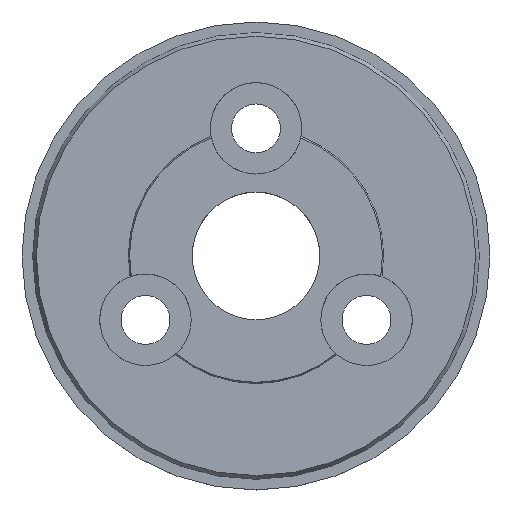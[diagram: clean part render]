
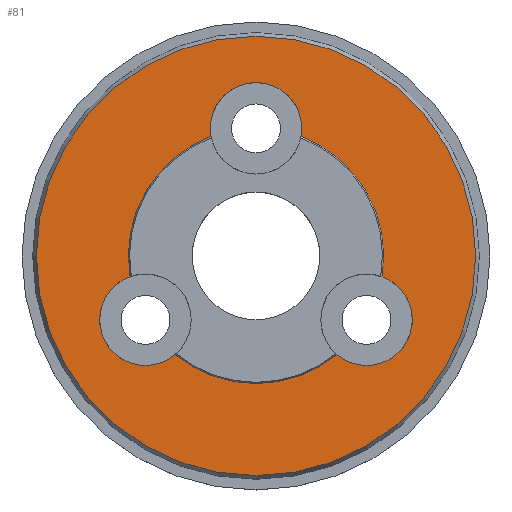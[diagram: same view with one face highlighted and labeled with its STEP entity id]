
A CAD part, top view. The second image highlights one B-rep face of the part: STEP entity #81.
In plain terms, the highlighted planar face has unit normal (0, 0, 1).
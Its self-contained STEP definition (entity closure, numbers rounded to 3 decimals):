
#81=ADVANCED_FACE('',(#119,#120),#104,.T.);
#104=PLANE('',#434);
#119=FACE_BOUND('',#164,.T.);
#120=FACE_BOUND('',#165,.T.);
#164=EDGE_LOOP('',(#219,#220,#221,#222,#223,#224));
#165=EDGE_LOOP('',(#225));
#219=ORIENTED_EDGE('',*,*,#347,.F.);
#220=ORIENTED_EDGE('',*,*,#339,.T.);
#221=ORIENTED_EDGE('',*,*,#348,.F.);
#222=ORIENTED_EDGE('',*,*,#343,.T.);
#223=ORIENTED_EDGE('',*,*,#349,.F.);
#224=ORIENTED_EDGE('',*,*,#350,.T.);
#225=ORIENTED_EDGE('',*,*,#351,.T.);
#300=VERTEX_POINT('',#614);
#302=VERTEX_POINT('',#618);
#304=VERTEX_POINT('',#623);
#306=VERTEX_POINT('',#627);
#310=VERTEX_POINT('',#639);
#311=VERTEX_POINT('',#642);
#312=VERTEX_POINT('',#645);
#339=EDGE_CURVE('',#300,#302,#383,.T.);
#343=EDGE_CURVE('',#304,#306,#385,.T.);
#347=EDGE_CURVE('',#300,#310,#389,.T.);
#348=EDGE_CURVE('',#304,#302,#390,.T.);
#349=EDGE_CURVE('',#311,#306,#391,.T.);
#350=EDGE_CURVE('',#311,#310,#392,.T.);
#351=EDGE_CURVE('',#312,#312,#393,.T.);
#383=CIRCLE('',#419,6.);
#385=CIRCLE('',#422,6.);
#389=CIRCLE('',#429,2.15);
#390=CIRCLE('',#430,2.15);
#391=CIRCLE('',#431,2.15);
#392=CIRCLE('',#432,6.);
#393=CIRCLE('',#433,10.327);
#419=AXIS2_PLACEMENT_3D('',#619,#490,#491);
#422=AXIS2_PLACEMENT_3D('',#628,#498,#499);
#429=AXIS2_PLACEMENT_3D('',#638,#512,#513);
#430=AXIS2_PLACEMENT_3D('',#640,#514,#515);
#431=AXIS2_PLACEMENT_3D('',#641,#516,#517);
#432=AXIS2_PLACEMENT_3D('',#643,#518,#519);
#433=AXIS2_PLACEMENT_3D('',#644,#520,#521);
#434=AXIS2_PLACEMENT_3D('',#646,#522,#523);
#490=DIRECTION('',(0.,0.,-1.));
#491=DIRECTION('',(1.,0.,0.));
#498=DIRECTION('',(0.,0.,-1.));
#499=DIRECTION('',(1.,0.,0.));
#512=DIRECTION('',(0.,0.,1.));
#513=DIRECTION('',(1.,0.,0.));
#514=DIRECTION('',(0.,0.,1.));
#515=DIRECTION('',(1.,0.,0.));
#516=DIRECTION('',(0.,0.,1.));
#517=DIRECTION('',(1.,0.,0.));
#518=DIRECTION('',(0.,0.,-1.));
#519=DIRECTION('',(1.,0.,0.));
#520=DIRECTION('',(0.,0.,1.));
#521=DIRECTION('',(1.,0.,0.));
#522=DIRECTION('',(0.,0.,1.));
#523=DIRECTION('',(1.,0.,0.));
#614=CARTESIAN_POINT('',(3.805,-4.639,3.85));
#618=CARTESIAN_POINT('',(-3.805,-4.639,3.85));
#619=CARTESIAN_POINT('',(0.,0.,3.85));
#623=CARTESIAN_POINT('',(-5.92,-0.976,3.85));
#627=CARTESIAN_POINT('',(-2.115,5.615,3.85));
#628=CARTESIAN_POINT('',(0.,0.,3.85));
#638=CARTESIAN_POINT('',(5.196,-3.,3.85));
#639=CARTESIAN_POINT('',(5.92,-0.976,3.85));
#640=CARTESIAN_POINT('',(-5.196,-3.,3.85));
#641=CARTESIAN_POINT('',(0.,6.,3.85));
#642=CARTESIAN_POINT('',(2.115,5.615,3.85));
#643=CARTESIAN_POINT('',(0.,0.,3.85));
#644=CARTESIAN_POINT('',(0.,0.,3.85));
#645=CARTESIAN_POINT('',(10.327,0.,3.85));
#646=CARTESIAN_POINT('',(0.,0.,3.85));
